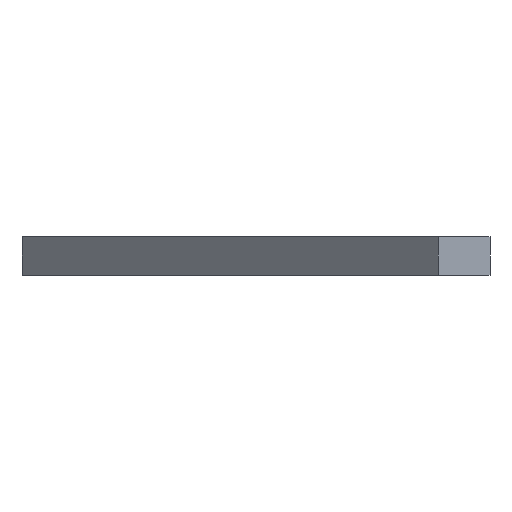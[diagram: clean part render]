
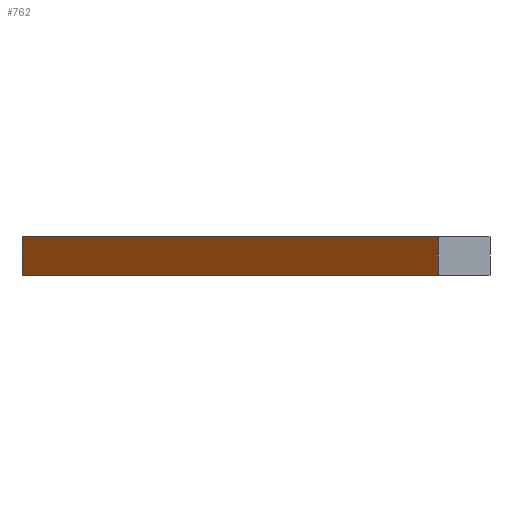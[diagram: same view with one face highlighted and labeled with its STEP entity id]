
A CAD part, left-side view. The second image highlights one B-rep face of the part: STEP entity #762.
In plain terms, the highlighted planar face has unit normal (-0.708, 0.706, 0).
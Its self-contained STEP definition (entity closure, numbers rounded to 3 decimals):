
#6 = DIRECTION ( 'NONE',  ( -0.708, 0.706, 0. ) ) ;
#21 = ORIENTED_EDGE ( 'NONE', *, *, #2134, .T. ) ;
#31 = CARTESIAN_POINT ( 'NONE',  ( 107.714, 121.42, 10. ) ) ;
#54 = EDGE_CURVE ( 'NONE', #649, #1995, #766, .T. ) ;
#175 = VERTEX_POINT ( 'NONE', #1283 ) ;
#297 = AXIS2_PLACEMENT_3D ( 'NONE', #1736, #6, #410 ) ;
#329 = CARTESIAN_POINT ( 'NONE',  ( 0., 13.469, 10. ) ) ;
#336 = EDGE_CURVE ( 'NONE', #1827, #175, #2839, .T. ) ;
#363 = CARTESIAN_POINT ( 'NONE',  ( -6.734, 6.72, 0. ) ) ;
#410 = DIRECTION ( 'NONE',  ( -0.706, -0.708, 0. ) ) ;
#461 = LINE ( 'NONE', #31, #2789 ) ;
#491 = DIRECTION ( 'NONE',  ( 0., 0., -1. ) ) ;
#624 = FACE_OUTER_BOUND ( 'NONE', #1149, .T. ) ;
#628 = VECTOR ( 'NONE', #1111, 1000. ) ;
#649 = VERTEX_POINT ( 'NONE', #761 ) ;
#715 = VECTOR ( 'NONE', #1012, 1000. ) ;
#761 = CARTESIAN_POINT ( 'NONE',  ( 0., 13.469, 0. ) ) ;
#762 = ADVANCED_FACE ( 'NONE', ( #624 ), #2609, .T. ) ;
#766 = LINE ( 'NONE', #363, #715 ) ;
#1012 = DIRECTION ( 'NONE',  ( 0.706, 0.708, 0. ) ) ;
#1111 = DIRECTION ( 'NONE',  ( 0.706, 0.708, 0. ) ) ;
#1131 = VECTOR ( 'NONE', #1679, 1000. ) ;
#1149 = EDGE_LOOP ( 'NONE', ( #1605, #2252, #1279, #21 ) ) ;
#1279 = ORIENTED_EDGE ( 'NONE', *, *, #336, .T. ) ;
#1283 = CARTESIAN_POINT ( 'NONE',  ( 107.714, 121.42, 10. ) ) ;
#1438 = CARTESIAN_POINT ( 'NONE',  ( 0., 13.469, 10. ) ) ;
#1605 = ORIENTED_EDGE ( 'NONE', *, *, #54, .F. ) ;
#1679 = DIRECTION ( 'NONE',  ( 0., 0., -1. ) ) ;
#1736 = CARTESIAN_POINT ( 'NONE',  ( -6.734, 6.72, 10. ) ) ;
#1827 = VERTEX_POINT ( 'NONE', #329 ) ;
#1995 = VERTEX_POINT ( 'NONE', #2377 ) ;
#2134 = EDGE_CURVE ( 'NONE', #175, #1995, #461, .T. ) ;
#2252 = ORIENTED_EDGE ( 'NONE', *, *, #2814, .F. ) ;
#2347 = LINE ( 'NONE', #1438, #1131 ) ;
#2377 = CARTESIAN_POINT ( 'NONE',  ( 107.714, 121.42, 0. ) ) ;
#2422 = CARTESIAN_POINT ( 'NONE',  ( -6.734, 6.72, 10. ) ) ;
#2609 = PLANE ( 'NONE',  #297 ) ;
#2789 = VECTOR ( 'NONE', #491, 1000. ) ;
#2814 = EDGE_CURVE ( 'NONE', #1827, #649, #2347, .T. ) ;
#2839 = LINE ( 'NONE', #2422, #628 ) ;
